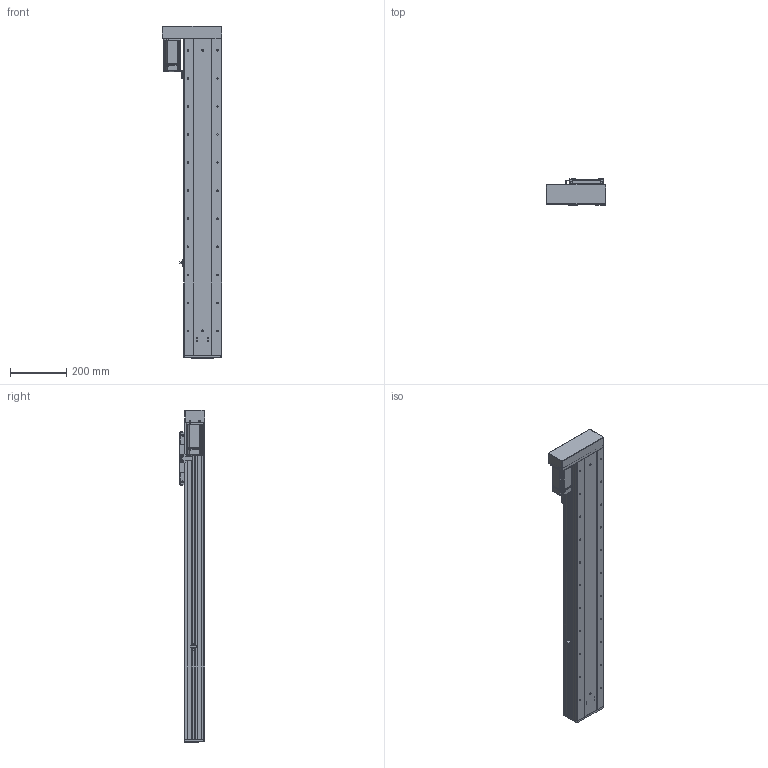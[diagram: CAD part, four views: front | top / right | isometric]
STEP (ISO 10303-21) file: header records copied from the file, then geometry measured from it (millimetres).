
FILE_DESCRIPTION (( 'STEP AP203' ), '1' );
FILE_NAME ('RY140F-L2020-300-LK.SLDASM_850.step', '2021-03-02T08:37:30', ( '盈信电脑' ), ( '东莞市道滘镇水果街19号' ), 'SwSTEP 2.0', 'SolidWorks 2012', '' );
FILE_SCHEMA (( 'CONFIG_CONTROL_DESIGN' ));
Length unit declared in the file: millimetre
Products named in the file (19): RY140F-L2020-300-LK.SLDASM_850; RY140F-左右折电机安装板(400W M5); RY140F-转折折电机座（7001）; RY140F-酘衵殏萇儂欶(400W); 侐源滅袉蝶; 覜茼ん672; RY140F-詩湍揤え; RY140F-672覜茼んえ; RY140F-直连型材铝滑块(16丝杆); RY140F-后盖板(铝件）; 15; 侂狟400W侜督萇儂; RY140F-滅鳥奻裔; RY140F-直连型材铝滑块连接座; RY100F-詩湍揤踡謫; RY140F-詩湍幗謫粣; RY140F-300-LK倰第奻裔啣_850; RY140F-300-LK蛌殏詩湍_850; RY140F-300-LK倰第菁釱_850
Assembly tree (23 placements, depth 3):
  RY140F-L2020-300-LK.SLDASM_850
    RY140F-300-LK倰第菁釱_850
    RY140F-300-LK倰第奻裔啣_850  x2
    RY140F-300-LK蛌殏詩湍_850
    RY140F-直连型材铝滑块连接座
    RY140F-滅鳥奻裔
    RY140F-詩湍幗謫粣
    RY100F-詩湍揤踡謫
    RY140F-直连型材铝滑块(16丝杆)
    RY140F-后盖板(铝件）
    侂狟400W侜督萇儂
      15
    覜茼ん672
    RY140F-672覜茼んえ
    RY140F-詩湍揤え  x2
    侐源滅袉蝶  x4
    RY140F-转折折电机座（7001）
    RY140F-左右折电机安装板(400W M5)
    RY140F-酘衵殏萇儂欶(400W)
Bounding box: 211 x 91 x 1184 mm (x, y, z)
Volume: 4533031.4 mm3; surface area: 1620133.5 mm2
Topology: 22 solids, 22 shells, 2073 faces, 5649 edges, 3574 vertices
Faces by surface type: cylinder 1012, plane 789, cone 242, bspline 26, torus 4
Entity records: 65311 total; most frequent: CARTESIAN_POINT 13759, DIRECTION 10498, ORIENTED_EDGE 10154, EDGE_CURVE 5077, AXIS2_PLACEMENT_3D 3777, VERTEX_POINT 3314, VECTOR 2944, LINE 2944
